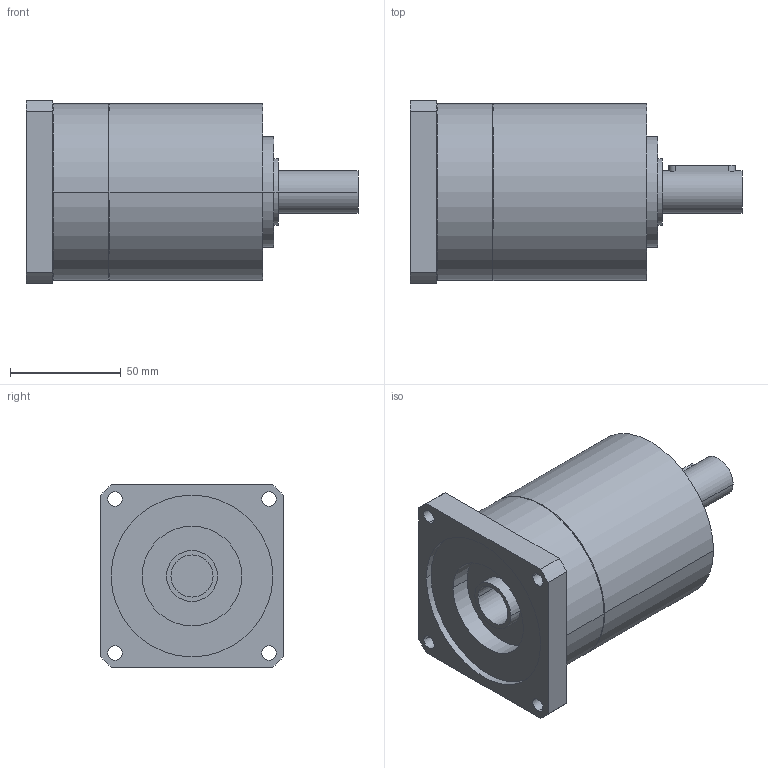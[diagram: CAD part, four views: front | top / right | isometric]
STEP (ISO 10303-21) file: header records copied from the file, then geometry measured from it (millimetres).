
FILE_DESCRIPTION(('CoCreate Modeling STEP Export'),'2;1');
FILE_NAME('GPR100_ig-3-4-5-6_19_B14_19_P05.stp','2014-08-26T10:08:34',(''),(''),'CoCreate Modeling STEP processor for AP214 (Solid Model)','CoCreate Modeling 16.00C 25-Feb-2009 (C) Parametric Technology GmbH','');
FILE_SCHEMA(('AUTOMOTIVE_DESIGN { 1 0 10303 214 1 1 1 1 }'));
Length unit declared in the file: millimetre
Products named in the file (2): GPR100_ig-3-4-5-6_19_B14_19_P05
Assembly tree (1 placements, depth 2):
  GPR100_ig-3-4-5-6_19_B14_19_P05
    GPR100_ig-3-4-5-6_19_B14_19_P05
Bounding box: 150 x 82.5 x 82.5 mm (x, y, z)
Volume: 542264.2 mm3; surface area: 51557.4 mm2
Topology: 1 solids, 1 shells, 70 faces, 188 edges, 132 vertices
Faces by surface type: cylinder 42, plane 22, cone 6
Entity records: 1939 total; most frequent: ORIENTED_EDGE 372, CARTESIAN_POINT 360, DIRECTION 262, EDGE_CURVE 186, VERTEX_POINT 132, AXIS2_PLACEMENT_3D 98, EDGE_LOOP 92, FACE_OUTER_BOUND 70
